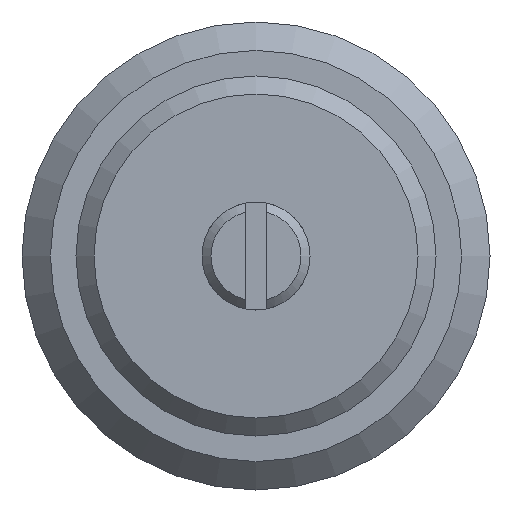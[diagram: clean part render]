
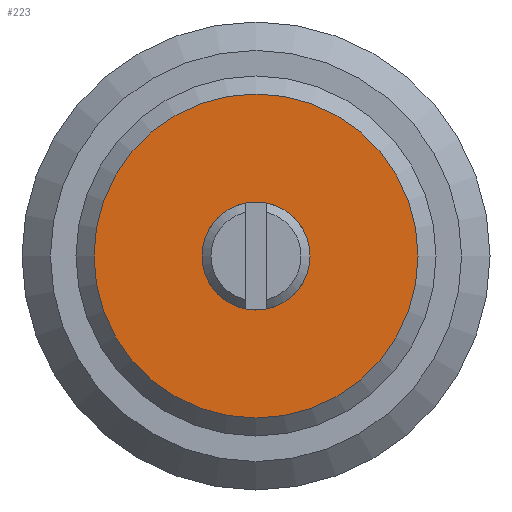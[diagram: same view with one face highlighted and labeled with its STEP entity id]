
A CAD part, front view. The second image highlights one B-rep face of the part: STEP entity #223.
In plain terms, the highlighted planar face has unit normal (0, -1, 0).
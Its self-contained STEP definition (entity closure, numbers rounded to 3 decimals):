
#21=FACE_BOUND('',#79,.T.);
#36=CIRCLE('',#240,1.5);
#42=CIRCLE('',#252,4.5);
#57=FACE_OUTER_BOUND('',#78,.T.);
#78=EDGE_LOOP('',(#196));
#79=EDGE_LOOP('',(#197));
#117=VERTEX_POINT('',#373);
#122=VERTEX_POINT('',#390);
#142=EDGE_CURVE('',#117,#117,#36,.T.);
#148=EDGE_CURVE('',#122,#122,#42,.T.);
#196=ORIENTED_EDGE('',*,*,#148,.F.);
#197=ORIENTED_EDGE('',*,*,#142,.F.);
#209=PLANE('',#253);
#223=ADVANCED_FACE('',(#57,#21),#209,.T.);
#240=AXIS2_PLACEMENT_3D('',#374,#291,#292);
#252=AXIS2_PLACEMENT_3D('',#391,#315,#316);
#253=AXIS2_PLACEMENT_3D('',#392,#317,#318);
#291=DIRECTION('center_axis',(0.,-1.,0.));
#292=DIRECTION('ref_axis',(1.,0.,0.));
#315=DIRECTION('center_axis',(0.,1.,0.));
#316=DIRECTION('ref_axis',(-1.,0.,0.));
#317=DIRECTION('center_axis',(0.,-1.,0.));
#318=DIRECTION('ref_axis',(0.,0.,-1.));
#373=CARTESIAN_POINT('',(1.5,0.,0.));
#374=CARTESIAN_POINT('Origin',(0.,0.,0.));
#390=CARTESIAN_POINT('',(4.5,0.,0.));
#391=CARTESIAN_POINT('Origin',(0.,0.,0.));
#392=CARTESIAN_POINT('Origin',(1.5,0.,0.));
